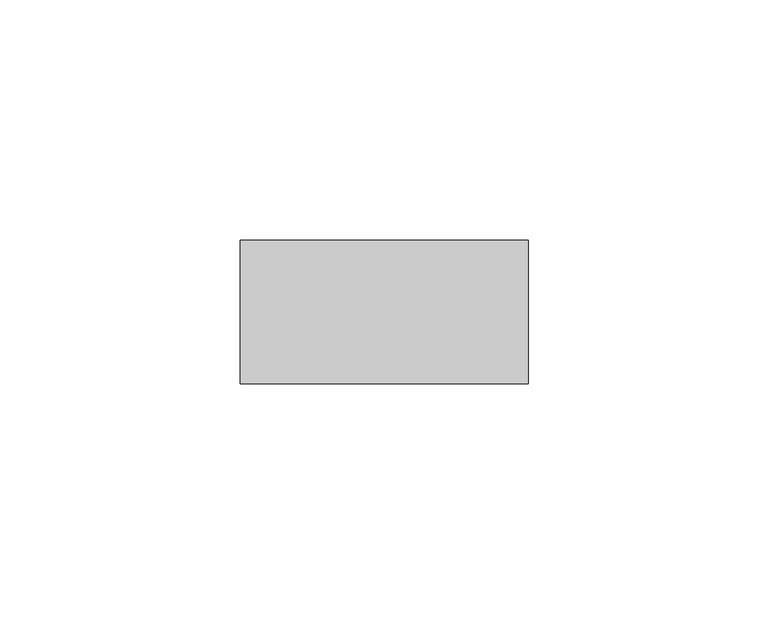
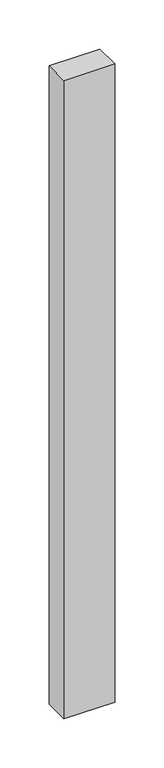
"""IFC4 building model written with IfcOpenShell, lengths in millimetres: member geometry, Прямоугольный импост : Квадрат 30 мм."""

import ifcopenshell
import ifcopenshell.guid

model = None  # the IFC model being written
_history = None  # IfcOwnerHistory: only IFC2X3 demands one
_inside = {}  # id of a spatial element -> (the spatial element, [elements in it])
_under = {}  # id of a project, library or spatial element -> (it, [spatial elements below it])
_declared = {}  # id of a project -> (the project, [libraries it declares])
_typed = {}  # id of a type object -> (the type object, [elements of that type])
_made_of = {}  # id of a material, layer set ... -> (it, [elements and type objects made of it])


def new_model(schema):
    """Start an empty IFC model of exactly this schema.

    Asked for "IFC4X3", IfcOpenShell would pick the latest addendum, in which some entities
    have other attributes; the version numbers below select the first issue.
    IFC2X3 requires an IfcOwnerHistory on every rooted entity: one is made here for all.
    """
    global model, _history
    if schema == "IFC4X3":
        model = ifcopenshell.file(schema_version=(4, 3, 0, 0))
    else:
        model = ifcopenshell.file(schema=schema)
    _inside.clear()
    _under.clear()
    _declared.clear()
    _typed.clear()
    _made_of.clear()
    _history = None
    if model.schema == "IFC2X3":
        org = make("IfcOrganization", Name="unknown")
        user = make(
            "IfcPersonAndOrganization",
            ThePerson=make("IfcPerson", FamilyName="unknown"),
            TheOrganization=org,
        )
        app = make(
            "IfcApplication",
            ApplicationDeveloper=org,
            Version="unknown",
            ApplicationFullName="unknown",
            ApplicationIdentifier="unknown",
        )
        _history = make(
            "IfcOwnerHistory",
            OwningUser=user,
            OwningApplication=app,
            ChangeAction="ADDED",
            CreationDate=0,
        )
    return model


def make(cls, **values):
    """One entity of the class cls with the attributes given. An attribute that is None is left unset."""
    return model.create_entity(
        cls, **{name: value for name, value in values.items() if value is not None}
    )


def rooted(cls, **values):
    """An entity with a GlobalId (a new one), such as an element, a storey or a relation."""
    return make(cls, GlobalId=ifcopenshell.guid.new(), OwnerHistory=_history, **values)


def si_unit(unit_type, name, prefix=None):
    """IfcSIUnit, for example si_unit("LENGTHUNIT", "METRE", prefix="MILLI")."""
    return make("IfcSIUnit", UnitType=unit_type, Prefix=prefix, Name=name)


def assignment(units):
    """IfcUnitAssignment: the units of a project."""
    return None if units is None else make("IfcUnitAssignment", Units=units)


def point(xyz):
    """IfcCartesianPoint."""
    return None if xyz is None else make("IfcCartesianPoint", Coordinates=xyz)


def direction(xyz):
    """IfcDirection."""
    return None if xyz is None else make("IfcDirection", DirectionRatios=xyz)


def frame(location, z_axis=None, x_axis=None):
    """IfcAxis2Placement3D, a coordinate frame: its origin and axes. An axis left out is left unset."""
    return make(
        "IfcAxis2Placement3D",
        Location=point(location),
        Axis=direction(z_axis),
        RefDirection=direction(x_axis),
    )


def origin():
    """The frame at (0, 0, 0) with its axes left unset."""
    return frame((0.0, 0.0, 0.0))


def place(relative_to, where):
    """IfcLocalPlacement: puts the frame where relative to a parent placement (None: the world)."""
    return make(
        "IfcLocalPlacement", PlacementRelTo=relative_to, RelativePlacement=where
    )


def context(
    kind, dimensions, precision=None, world=None, true_north=None, identifier=None
):
    """IfcGeometricRepresentationContext, for example the 3D "Model" context."""
    return make(
        "IfcGeometricRepresentationContext",
        ContextIdentifier=identifier,
        ContextType=kind,
        CoordinateSpaceDimension=dimensions,
        Precision=precision,
        WorldCoordinateSystem=world,
        TrueNorth=true_north,
    )


def project(units=None, contexts=None):
    """IfcProject with its units and contexts."""
    return rooted(
        "IfcProject",
        Name="project",
        RepresentationContexts=contexts,
        UnitsInContext=assignment(units),
    )


def spatial(cls, under=None, at=None, **own):
    """A site, building, storey or space (cls), placed at a placement, below another one or the project."""
    s = rooted(cls, ObjectPlacement=at, **own)
    if under is not None:
        _under.setdefault(under.id(), (under, []))[1].append(s)
    return s


def polyline(points):
    """IfcPolyline through the points."""
    return make("IfcPolyline", Points=[point(p) for p in points])


def outline(outer, holes=None, kind="AREA"):
    """IfcArbitraryClosedProfileDef: a profile drawn as a closed curve; with holes, ...WithVoids."""
    if holes is None:
        return make("IfcArbitraryClosedProfileDef", ProfileType=kind, OuterCurve=outer)
    return make(
        "IfcArbitraryProfileDefWithVoids",
        ProfileType=kind,
        OuterCurve=outer,
        InnerCurves=holes,
    )


def extrude(swept, where, along, depth):
    """IfcExtrudedAreaSolid: the profile swept, set in the frame where, extruded along a direction by depth."""
    return make(
        "IfcExtrudedAreaSolid",
        SweptArea=swept,
        Position=where,
        ExtrudedDirection=direction(along),
        Depth=depth,
    )


def shape(context_of_items, identifier, shape_type, items):
    """IfcShapeRepresentation: the items that make up one representation, for example the "Body"."""
    return make(
        "IfcShapeRepresentation",
        ContextOfItems=context_of_items,
        RepresentationIdentifier=identifier,
        RepresentationType=shape_type,
        Items=items,
    )


def source(mapping_origin, context_of_items, identifier, shape_type, items):
    """IfcRepresentationMap: a shape defined once, which mapped items show again and again."""
    return make(
        "IfcRepresentationMap",
        MappingOrigin=mapping_origin,
        MappedRepresentation=shape(context_of_items, identifier, shape_type, items),
    )


def transform(
    local_origin,
    x_axis=None,
    y_axis=None,
    z_axis=None,
    scale=None,
    scale2=None,
    scale3=None,
    uniform=True,
):
    """IfcCartesianTransformationOperator3D, or its non-uniform kind. x_axis, y_axis, z_axis: its Axis1, 2, 3."""
    if uniform:
        return make(
            "IfcCartesianTransformationOperator3D",
            Axis1=direction(x_axis),
            Axis2=direction(y_axis),
            LocalOrigin=point(local_origin),
            Scale=scale,
            Axis3=direction(z_axis),
        )
    return make(
        "IfcCartesianTransformationOperator3DnonUniform",
        Axis1=direction(x_axis),
        Axis2=direction(y_axis),
        LocalOrigin=point(local_origin),
        Scale=scale,
        Axis3=direction(z_axis),
        Scale2=scale2,
        Scale3=scale3,
    )


def mapped(mapping_source, mapping_target):
    """IfcMappedItem: shows the shape of a source again, moved by a transform."""
    return make(
        "IfcMappedItem", MappingSource=mapping_source, MappingTarget=mapping_target
    )


def made_of(thing, what):
    """Note that an element or type object is made of a material, layer set ...; save() writes the relation."""
    if what is not None:
        _made_of.setdefault(what.id(), (what, []))[1].append(thing)
    return thing


def element(
    cls,
    number,
    at=None,
    inside=None,
    cuts=None,
    type_object=None,
    material=None,
    context=None,
    identifier="Body",
    shape_type=None,
    held_by="IfcProductDefinitionShape",
    body=None,
    shapes=None,
    **own,
):
    """One element of the class cls, such as IfcWall. Its Tag is "e" and its number.

    at: its placement. inside: the storey or other place that contains it. cuts: it is an
    opening in that element (IfcRelVoidsElement). A single representation is given by context,
    identifier, shape_type and body (its items); several are given by shapes. held_by: the class
    of the entity that holds the representations. save() writes the other relations.
    """
    e = rooted(cls, Tag="e%d" % number, ObjectPlacement=at, **own)
    if body is not None:
        shapes = [shape(context, identifier, shape_type, body)]
    if shapes is not None:
        e.Representation = make(held_by, Representations=shapes)
    if inside is not None:
        _inside.setdefault(inside.id(), (inside, []))[1].append(e)
    if cuts is not None:
        rooted(
            "IfcRelVoidsElement", RelatingBuildingElement=cuts, RelatedOpeningElement=e
        )
    if type_object is not None:
        _typed.setdefault(type_object.id(), (type_object, []))[1].append(e)
    return made_of(e, material)


def aggregate(whole, parts):
    """IfcRelAggregates: a whole, such as a stair, and the parts it consists of."""
    return rooted("IfcRelAggregates", RelatingObject=whole, RelatedObjects=parts)


def save(model, path):
    """Write the relations noted so far, then the file.

    IfcRelAggregates (storeys below a building ...), IfcRelContainedInSpatialStructure (elements
    in a storey), IfcRelDefinesByType, IfcRelAssociatesMaterial and IfcRelDeclares: one each for
    every whole, place, type object, material and project.
    """
    for whole, parts in _under.values():
        aggregate(whole, parts)
    for where, things in _inside.values():
        rooted(
            "IfcRelContainedInSpatialStructure",
            RelatedElements=things,
            RelatingStructure=where,
        )
    for kind, things in _typed.values():
        rooted("IfcRelDefinesByType", RelatedObjects=things, RelatingType=kind)
    for what, things in _made_of.values():
        rooted("IfcRelAssociatesMaterial", RelatedObjects=things, RelatingMaterial=what)
    for by, libraries in _declared.values():
        rooted("IfcRelDeclares", RelatingContext=by, RelatedDefinitions=libraries)
    model.write(path)


def member_d7fba214(model_context):
    return source(origin(), model_context, "Body", "SweptSolid", [
        extrude(outline(polyline([(30.0, 15.0), (30.0, -15.0), (-30.0, -15.0), (-30.0, 15.0), (30.0, 15.0)])), frame((0.0, 0.0, -795.0), z_axis=(0.0, 0.0, 1.0), x_axis=(1.0, 0.0, 0.0)), (0.0, 0.0, 1.0), 795.0),
    ])


if __name__ == "__main__":
    model = new_model("IFC4")
    model_context = context("Model", 3, world=origin())
    ifc_project = project(units=[si_unit("LENGTHUNIT", "METRE", prefix="MILLI")], contexts=[model_context])
    site = spatial("IfcSite", under=ifc_project)
    building = spatial("IfcBuilding", under=site)
    placement = place(None, origin())
    member_shape = member_d7fba214(model_context)
    element("IfcMember", 1, ObjectType="Прямоугольный импост : Квадрат 30 мм", at=placement, inside=building, context=model_context, shape_type="MappedRepresentation", body=[
        mapped(member_shape, transform((0.0, 0.0, 0.0), x_axis=(1.0, 0.0, 0.0), y_axis=(0.0, 1.0, 0.0), z_axis=(0.0, 0.0, 1.0))),
    ])
    save(model, "model.ifc")
